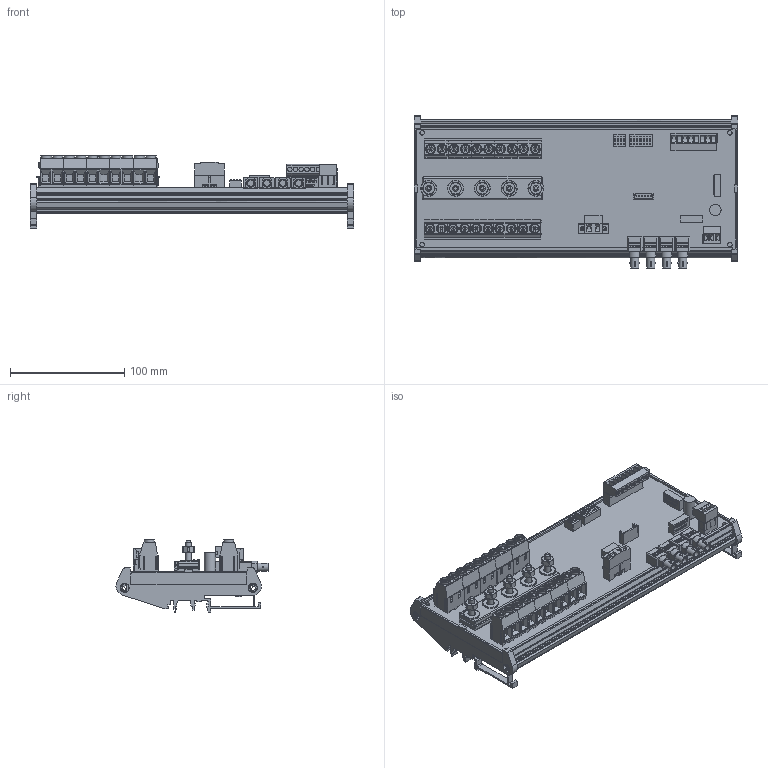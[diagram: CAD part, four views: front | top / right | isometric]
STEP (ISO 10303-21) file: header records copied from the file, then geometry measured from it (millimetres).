
FILE_DESCRIPTION(('FreeCAD Model'),'2;1');
FILE_NAME('C:/3D Files/Stringhe/ST0N/ST0N2025 DR/ST0N2025 DR.step', '2021-01-27T18:19:42',('Author'),(''), 'Open CASCADE STEP processor 7.2','FreeCAD','Unknown');
FILE_SCHEMA(('AUTOMOTIVE_DESIGN { 1 0 10303 214 1 1 1 1 }'));
Length unit declared in the file: millimetre
Products named in the file (47): ST0N2025_DR; Mstb_3P_F; Mstb_3Pc_M; AmpModu_6P_M; DipSwitch8; DipSwitch4; Dado6MA003; Dado6MA004; Dado6MA005; Dado6MA006; Rondella6; Rondella007; Rondella008; Rondella009; CH_01-02; CH_03-04; CH_05-06; CH_11-12; CH_13-14; CH_15-16; CN3_M; CN3_F; IB2405LS-1W; ELNA_470_uF_35_V; VTBSE-6x35; VTBSE-6x031; VTBSE-6x032; VTBSE-6x033; CH_07-08; CH_17-18; Mstb_8P_F; Mstb_8Pc_M; IB2405LS-1W001; CH_09-10; CH_19-20; Barra_105_mm001; Barra_105_mm002; Barra_105_mm003; Stampato_279,7_x_108; VTBSE-6x034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
Assembly tree (46 placements, depth 2):
  ST0N2025_DR
    Mstb_3P_F
    Mstb_3Pc_M
    AmpModu_6P_M
    DipSwitch8
    DipSwitch4
    Dado6MA003
    Dado6MA004
    Dado6MA005
    Dado6MA006
    Rondella6
    Rondella007
    Rondella008
    Rondella009
    CH_01-02
    CH_03-04
    CH_05-06
    CH_11-12
    CH_13-14
    CH_15-16
    CN3_M
    CN3_F
    IB2405LS-1W
    ELNA_470_uF_35_V
    VTBSE-6x35
    VTBSE-6x031
    VTBSE-6x032
    VTBSE-6x033
    CH_07-08
    CH_17-18
    Mstb_8P_F
    Mstb_8Pc_M
    IB2405LS-1W001
    CH_09-10
    CH_19-20
    Barra_105_mm001
    Barra_105_mm002
    Barra_105_mm003
    Stampato_279,7_x_108
    VTBSE-6x034
    Rondella010
    Dado6MA007
    Profilo_284x128
    HFBR-x41xTZ001
    HFBR-x41xTZ002
    HFBR-x41xTZ003
    HFBR-x41xTZ004
Bounding box: 284 x 133.32 x 63.19 mm (x, y, z)
Volume: 298010.7 mm3; surface area: 300858.7 mm2
Topology: 122 solids, 238 shells, 4862 faces, 17357 edges, 22757 vertices
Faces by surface type: plane 3602, cylinder 883, bspline 185, cone 101, torus 57, sphere 32, extrusion 2
Full cylindrical faces by diameter (mm): 0.5 x40, 0.75 x36, 1 x10, 1.5 x11, 1.6 x2, 1.8 x2, 2.05 x2, 2.5 x2, 3.3 x2, 3.5 x2, 3.8 x2, 4 x19, 4.3 x2, 4.917 x5, 5 x10, 5.6 x4, 6.6 x5, 7 x15, 7.1 x4, 7.2 x20, 7.5 x20, 7.9 x4, 8.66 x20, 9.202 x2, 10 x6, 14 x5
Entity records: 411980 total; most frequent: CARTESIAN_POINT 96884, DIRECTION 50678, VECTOR 33868, LINE 33866, ORIENTED_EDGE 26252, PCURVE 26252, DEFINITIONAL_REPRESENTATION 26252, EDGE_CURVE 13963
